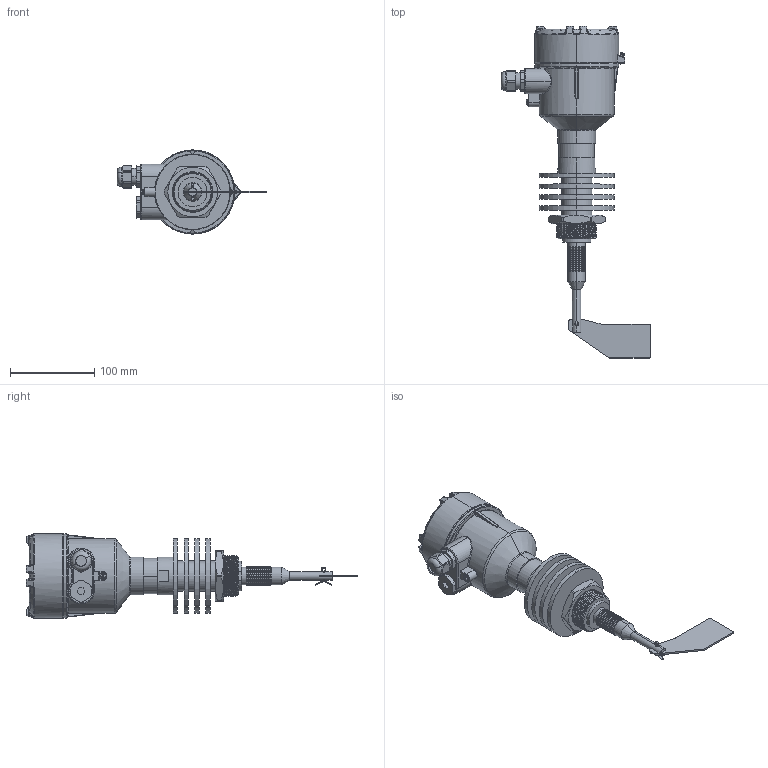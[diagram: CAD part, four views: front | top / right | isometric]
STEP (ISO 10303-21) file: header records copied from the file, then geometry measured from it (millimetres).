
FILE_DESCRIPTION (( 'STEP AP214' ), '1' );
FILE_NAME ('IL-LAA-N-Ex ìóôòîâàÿ ëîïàñòü - ð.STEP', '2020-12-27T20:07:09', ( '' ), ( '' ), 'SwSTEP 2.0', 'SolidWorks 2020', '' );
FILE_SCHEMA (( 'AUTOMOTIVE_DESIGN' ));
Length unit declared in the file: millimetre
Products named in the file (13): Ëîïàñòü; 幄鼭歑 2; Êîðïóñ íèç; IL-LAA-N-Ex ìóôòîâàÿ ëîïàñòü - ð; 扻錝僝鍧; Øïèëüêà; Âèíò Ì4; Ãîôðà; Êðûøêà; 幄鼭歑; Êîðïóñ ñåðåäèíà ð; Äåòàëü2^IL-LAA-N-Ex ìóôòîâàÿ ëîïàñòü - ð; 扻豵鵨
Assembly tree (12 placements, depth 2):
  IL-LAA-N-Ex ìóôòîâàÿ ëîïàñòü - ð
    扻豵鵨
    扻錝僝鍧
    Êðûøêà
    Ëîïàñòü
    Øïèëüêà
    幄鼭歑
    幄鼭歑 2
    Âèíò Ì4
    Êîðïóñ ñåðåäèíà ð
    Êîðïóñ íèç
    Ãîôðà
    Äåòàëü2^IL-LAA-N-Ex ìóôòîâàÿ ëîïàñòü - ð
Bounding box: 178.5 x 395 x 100 mm (x, y, z)
Volume: 1215920.6 mm3; surface area: 171295.1 mm2
Topology: 12 solids, 12 shells, 932 faces, 2181 edges, 1249 vertices
Faces by surface type: cylinder 263, bspline 207, plane 181, torus 173, cone 58, sphere 50
Entity records: 42317 total; most frequent: CARTESIAN_POINT 21966, ORIENTED_EDGE 4256, DIRECTION 4127, EDGE_CURVE 2128, AXIS2_PLACEMENT_3D 1814, VERTEX_POINT 1243, CIRCLE 1074, EDGE_LOOP 991
